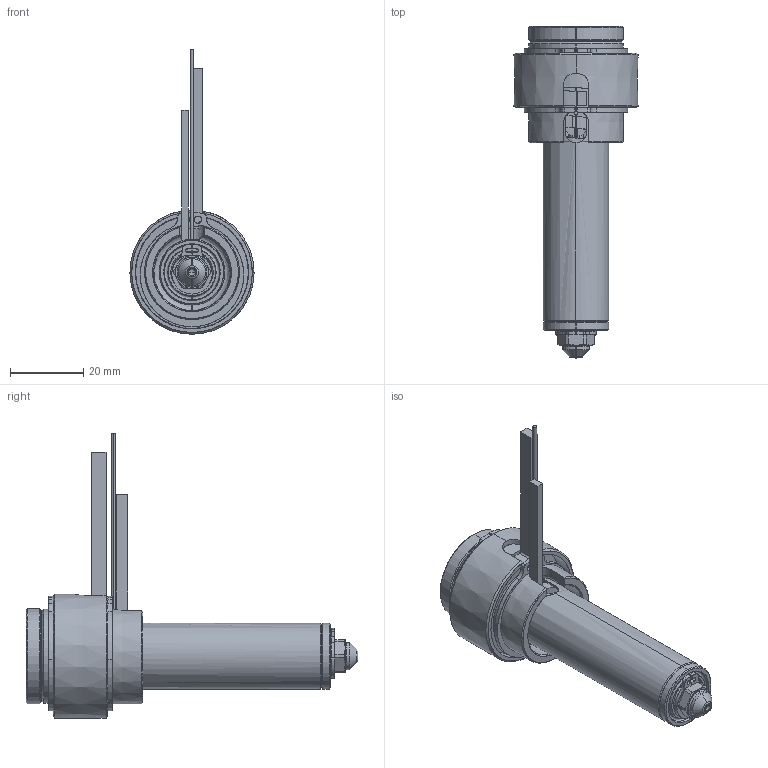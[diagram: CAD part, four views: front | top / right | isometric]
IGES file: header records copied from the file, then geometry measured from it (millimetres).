
Start section: SolidWorks IGES file using analytic representation for surfaces
Global section: file name: C:\Documents and Settings\ws-20\Desktop\TEM\UGER2502-S-A-1 [Øb-1.90 ØC-4.0].IGS; native system: SolidWorks 2012; preprocessor: SolidWorks 2012; author: ws-20; date: 120405.101838; units: millimetre
Bounding box: 34 x 90.9 x 77.9 mm (x, y, z)
Surface area: 22054.3 mm2 (no closed solid volume)
Topology: 0 solids, 0 shells, 204 faces, 2675 edges, 2673 vertices
Faces by surface type: revolution 131, bspline 73
